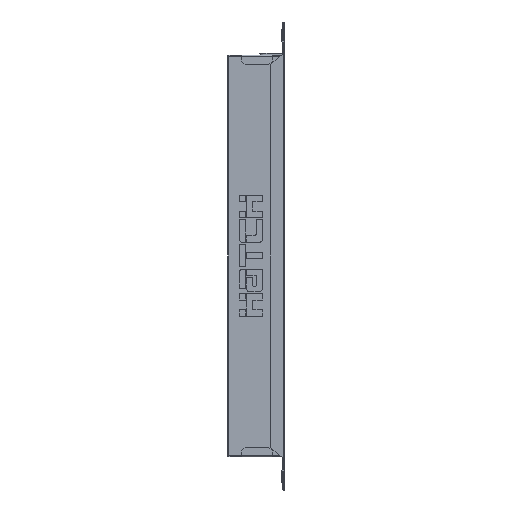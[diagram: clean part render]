
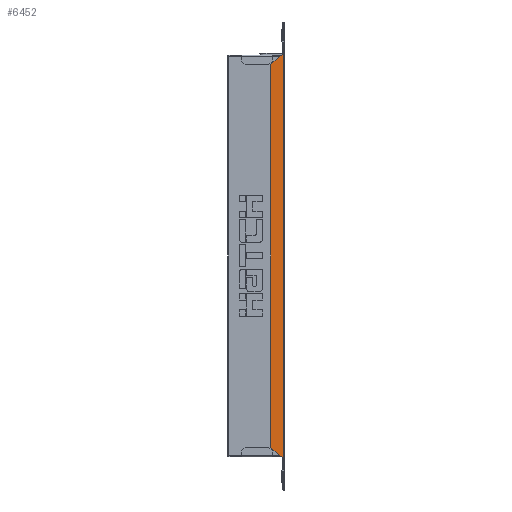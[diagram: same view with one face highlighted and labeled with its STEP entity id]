
A CAD part, left-side view. The second image highlights one B-rep face of the part: STEP entity #6452.
In plain terms, the highlighted planar face has unit normal (-1, 0, 0).
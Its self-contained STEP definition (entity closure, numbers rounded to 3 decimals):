
#610 = ORIENTED_EDGE ( 'NONE', *, *, #15688, .F. ) ;
#664 = ORIENTED_EDGE ( 'NONE', *, *, #15645, .T. ) ;
#679 = ORIENTED_EDGE ( 'NONE', *, *, #19391, .F. ) ;
#692 = ORIENTED_EDGE ( 'NONE', *, *, #19439, .T. ) ;
#693 = ORIENTED_EDGE ( 'NONE', *, *, #15697, .F. ) ;
#694 = ORIENTED_EDGE ( 'NONE', *, *, #15683, .F. ) ;
#3443 = AXIS2_PLACEMENT_3D ( 'NONE', #7561, #7568, #7527 ) ;
#3831 = VERTEX_POINT ( 'NONE', #5651 ) ;
#3930 = VERTEX_POINT ( 'NONE', #4150 ) ;
#4150 = CARTESIAN_POINT ( 'NONE',  ( -28.4, 1.4, -103. ) ) ;
#4183 = CARTESIAN_POINT ( 'NONE',  ( -28.4, 0., 103. ) ) ;
#4187 = CARTESIAN_POINT ( 'NONE',  ( -28.4, 0., -103. ) ) ;
#4206 = CARTESIAN_POINT ( 'NONE',  ( -28.4, 1.4, 103. ) ) ;
#4220 = CARTESIAN_POINT ( 'NONE',  ( -28.4, 6.4, -98. ) ) ;
#4788 = DIRECTION ( 'NONE',  ( 0., 0.707, -0.707 ) ) ;
#4806 = CARTESIAN_POINT ( 'NONE',  ( -28.4, 0.7, 103.7 ) ) ;
#4875 = DIRECTION ( 'NONE',  ( 0., 0., 1. ) ) ;
#4890 = CARTESIAN_POINT ( 'NONE',  ( -28.4, 6.4, 103. ) ) ;
#4891 = CARTESIAN_POINT ( 'NONE',  ( -28.4, 0., 103. ) ) ;
#4902 = DIRECTION ( 'NONE',  ( 0., -1., 0. ) ) ;
#4916 = CARTESIAN_POINT ( 'NONE',  ( -28.4, 0., -103. ) ) ;
#4949 = DIRECTION ( 'NONE',  ( 0., 0., -1. ) ) ;
#5474 = VERTEX_POINT ( 'NONE', #4220 ) ;
#5480 = VERTEX_POINT ( 'NONE', #4183 ) ;
#5481 = VERTEX_POINT ( 'NONE', #4187 ) ;
#5482 = VERTEX_POINT ( 'NONE', #4206 ) ;
#5651 = CARTESIAN_POINT ( 'NONE',  ( -28.4, 6.4, 98. ) ) ;
#6452 = ADVANCED_FACE ( 'NONE', ( #11631 ), #7558, .T. ) ;
#7527 = DIRECTION ( 'NONE',  ( 0., -1., 0. ) ) ;
#7558 = PLANE ( 'NONE',  #3443 ) ;
#7561 = CARTESIAN_POINT ( 'NONE',  ( -28.4, 0., 103. ) ) ;
#7568 = DIRECTION ( 'NONE',  ( -1., 0., 0. ) ) ;
#11631 = FACE_OUTER_BOUND ( 'NONE', #12102, .T. ) ;
#12102 = EDGE_LOOP ( 'NONE', ( #610, #664, #694, #692, #679, #693 ) ) ;
#13413 = DIRECTION ( 'NONE',  ( 0., 1., 0. ) ) ;
#13458 = CARTESIAN_POINT ( 'NONE',  ( -28.4, 6.4, -103. ) ) ;
#13563 = DIRECTION ( 'NONE',  ( 0., -0.707, -0.707 ) ) ;
#13595 = CARTESIAN_POINT ( 'NONE',  ( -28.4, 103.7, -0.7 ) ) ;
#15645 = EDGE_CURVE ( 'NONE', #5482, #3831, #18709, .T. ) ;
#15683 = EDGE_CURVE ( 'NONE', #5474, #3831, #18728, .T. ) ;
#15688 = EDGE_CURVE ( 'NONE', #5482, #5480, #18735, .T. ) ;
#15697 = EDGE_CURVE ( 'NONE', #5480, #5481, #18753, .T. ) ;
#16932 = VECTOR ( 'NONE', #13413, 1000. ) ;
#16992 = LINE ( 'NONE', #13458, #16932 ) ;
#17038 = LINE ( 'NONE', #13595, #17157 ) ;
#17157 = VECTOR ( 'NONE', #13563, 1000. ) ;
#18689 = VECTOR ( 'NONE', #4788, 1000. ) ;
#18709 = LINE ( 'NONE', #4806, #18689 ) ;
#18728 = LINE ( 'NONE', #4890, #18777 ) ;
#18735 = LINE ( 'NONE', #4891, #18759 ) ;
#18753 = LINE ( 'NONE', #4916, #18754 ) ;
#18754 = VECTOR ( 'NONE', #4949, 1000. ) ;
#18759 = VECTOR ( 'NONE', #4902, 1000. ) ;
#18777 = VECTOR ( 'NONE', #4875, 1000. ) ;
#19391 = EDGE_CURVE ( 'NONE', #5481, #3930, #16992, .T. ) ;
#19439 = EDGE_CURVE ( 'NONE', #5474, #3930, #17038, .T. ) ;
